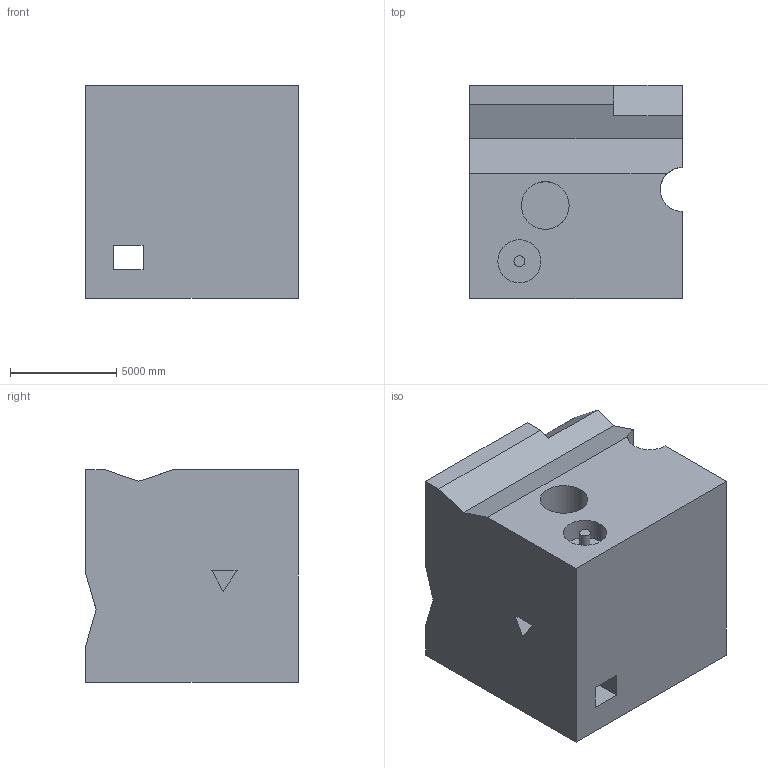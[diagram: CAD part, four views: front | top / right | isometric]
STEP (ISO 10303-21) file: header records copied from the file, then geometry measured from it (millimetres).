
FILE_DESCRIPTION (( 'STEP AP203' ), '1' );
FILE_NAME ('1988.STEP', '2022-08-23T10:18:50', ( 'user' ), ( '' ), 'SwSTEP 2.0', 'SolidWorks 2021', '' );
FILE_SCHEMA (( 'CONFIG_CONTROL_DESIGN' ));
Length unit declared in the file: centimetre
Products named in the file (1): 1988
Bounding box: 10000 x 10000 x 10000 mm (x, y, z)
Volume: 910119852401 mm3; surface area: 746710499.2 mm2
Topology: 1 solids, 1 shells, 40 faces, 105 edges, 70 vertices
Faces by surface type: plane 31, cylinder 9
Entity records: 1312 total; most frequent: CARTESIAN_POINT 231, ORIENTED_EDGE 210, DIRECTION 200, EDGE_CURVE 105, LINE 82, VECTOR 82, VERTEX_POINT 70, AXIS2_PLACEMENT_3D 59
